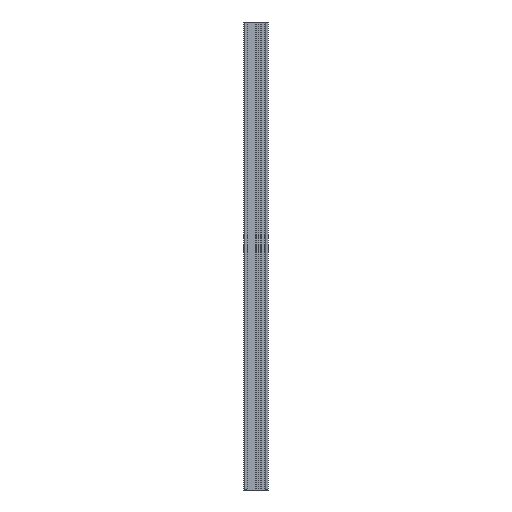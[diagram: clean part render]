
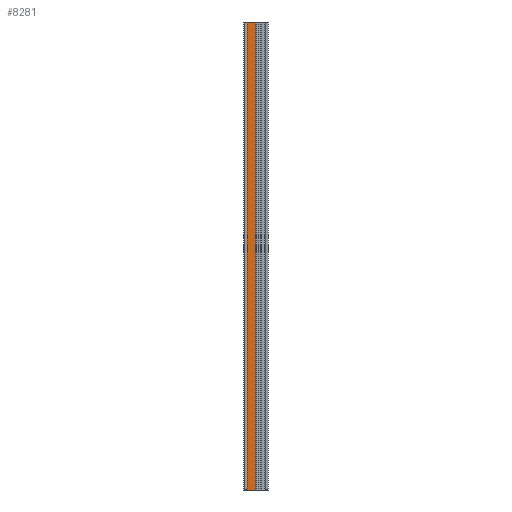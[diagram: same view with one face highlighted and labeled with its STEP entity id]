
A CAD part, left-side view. The second image highlights one B-rep face of the part: STEP entity #8281.
In plain terms, the highlighted planar face has unit normal (-1, 0, 0).
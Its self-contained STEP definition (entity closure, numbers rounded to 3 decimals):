
#5076 = CARTESIAN_POINT ( 'NONE',  ( -40., 67.222, 749. ) ) ;
#5077 = DIRECTION ( 'NONE',  ( 0., -1., 0. ) ) ;
#5078 = VECTOR ( 'NONE', #5077, 1000. ) ;
#5079 = CARTESIAN_POINT ( 'NONE',  ( -40., 40.3, 749. ) ) ;
#5080 = LINE ( 'NONE', #5079, #5078 ) ;
#5081 = DIRECTION ( 'NONE',  ( 0., -1., 0. ) ) ;
#5082 = DIRECTION ( 'NONE',  ( -1., 0., 0. ) ) ;
#5083 = CARTESIAN_POINT ( 'NONE',  ( -40., 40.3, -749. ) ) ;
#5084 = AXIS2_PLACEMENT_3D ( 'NONE', #5083, #5082, #5081 ) ;
#5085 = PLANE ( 'NONE',  #5084 ) ;
#5086 = FACE_OUTER_BOUND ( 'NONE', #8282, .T. ) ;
#5137 = DIRECTION ( 'NONE',  ( 0., -1., 0. ) ) ;
#5138 = VECTOR ( 'NONE', #5137, 1000. ) ;
#5139 = CARTESIAN_POINT ( 'NONE',  ( -40., 40.3, -749. ) ) ;
#5140 = LINE ( 'NONE', #5139, #5138 ) ;
#5141 = CARTESIAN_POINT ( 'NONE',  ( -40., 67.222, -749. ) ) ;
#5142 = DIRECTION ( 'NONE',  ( 0., 0., 1. ) ) ;
#5143 = VECTOR ( 'NONE', #5142, 1000. ) ;
#5144 = CARTESIAN_POINT ( 'NONE',  ( -40., 67.222, -749. ) ) ;
#5149 = LINE ( 'NONE', #5144, #5143 ) ;
#5247 = CARTESIAN_POINT ( 'NONE',  ( -40., 40.3, -749. ) ) ;
#5248 = DIRECTION ( 'NONE',  ( 0., 0., 1. ) ) ;
#5249 = VECTOR ( 'NONE', #5248, 1000. ) ;
#5250 = CARTESIAN_POINT ( 'NONE',  ( -40., 40.3, -749. ) ) ;
#5251 = LINE ( 'NONE', #5250, #5249 ) ;
#5252 = CARTESIAN_POINT ( 'NONE',  ( -40., 40.3, 749. ) ) ;
#8251 = EDGE_CURVE ( 'NONE', #8252, #8285, #5149, .T. ) ;
#8252 = VERTEX_POINT ( 'NONE', #5141 ) ;
#8253 = ORIENTED_EDGE ( 'NONE', *, *, #8254, .T. ) ;
#8254 = EDGE_CURVE ( 'NONE', #8252, #8409, #5140, .T. ) ;
#8255 = ORIENTED_EDGE ( 'NONE', *, *, #8408, .T. ) ;
#8281 = ADVANCED_FACE ( 'NONE', ( #5086 ), #5085, .T. ) ;
#8282 = EDGE_LOOP ( 'NONE', ( #8283, #8286, #8253, #8255 ) ) ;
#8283 = ORIENTED_EDGE ( 'NONE', *, *, #8284, .F. ) ;
#8284 = EDGE_CURVE ( 'NONE', #8285, #8406, #5080, .T. ) ;
#8285 = VERTEX_POINT ( 'NONE', #5076 ) ;
#8286 = ORIENTED_EDGE ( 'NONE', *, *, #8251, .F. ) ;
#8406 = VERTEX_POINT ( 'NONE', #5252 ) ;
#8408 = EDGE_CURVE ( 'NONE', #8409, #8406, #5251, .T. ) ;
#8409 = VERTEX_POINT ( 'NONE', #5247 ) ;
